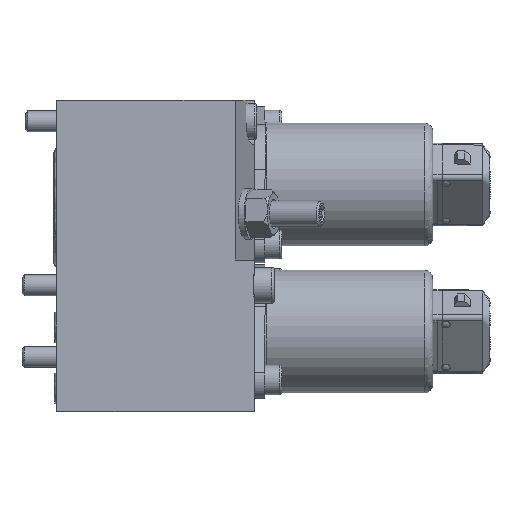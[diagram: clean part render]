
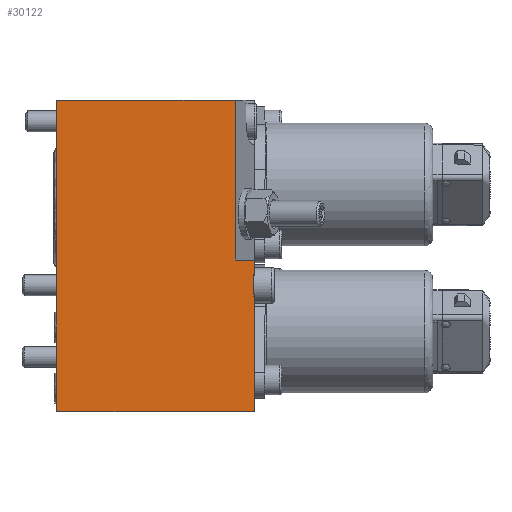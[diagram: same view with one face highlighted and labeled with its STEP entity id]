
A CAD part, top view. The second image highlights one B-rep face of the part: STEP entity #30122.
In plain terms, the highlighted planar face has unit normal (0, 0, 1).
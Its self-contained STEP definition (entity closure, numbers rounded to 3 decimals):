
#506 = VERTEX_POINT ( 'NONE', #32029 ) ;
#668 = DIRECTION ( 'NONE',  ( 1., 0., 0. ) ) ;
#690 = VECTOR ( 'NONE', #18390, 1000. ) ;
#1692 = DIRECTION ( 'NONE',  ( -1., 0., 0. ) ) ;
#3133 = DIRECTION ( 'NONE',  ( 0., -1., 0. ) ) ;
#3438 = DIRECTION ( 'NONE',  ( 0., 1., 0. ) ) ;
#3447 = LINE ( 'NONE', #25984, #690 ) ;
#3598 = CARTESIAN_POINT ( 'NONE',  ( 47., -46.291, 54. ) ) ;
#3690 = LINE ( 'NONE', #37022, #17293 ) ;
#3855 = AXIS2_PLACEMENT_3D ( 'NONE', #33881, #15272, #11844 ) ;
#3897 = EDGE_CURVE ( 'NONE', #18975, #12218, #28373, .T. ) ;
#3969 = VERTEX_POINT ( 'NONE', #46835 ) ;
#4959 = CARTESIAN_POINT ( 'NONE',  ( 46.7, -46.291, 54. ) ) ;
#6796 = VECTOR ( 'NONE', #26349, 1000. ) ;
#6890 = LINE ( 'NONE', #7142, #30893 ) ;
#7142 = CARTESIAN_POINT ( 'NONE',  ( 47., -41.709, 54. ) ) ;
#7848 = CARTESIAN_POINT ( 'NONE',  ( 0., -74., 54. ) ) ;
#8024 = CARTESIAN_POINT ( 'NONE',  ( 47., -38., 54. ) ) ;
#9222 = VERTEX_POINT ( 'NONE', #4959 ) ;
#9607 = ORIENTED_EDGE ( 'NONE', *, *, #21527, .T. ) ;
#10570 = DIRECTION ( 'NONE',  ( -1., 0., 0. ) ) ;
#11673 = EDGE_CURVE ( 'NONE', #506, #47706, #41182, .T. ) ;
#11680 = CARTESIAN_POINT ( 'NONE',  ( 46.7, -41.709, 54. ) ) ;
#11844 = DIRECTION ( 'NONE',  ( 1., 0., 0. ) ) ;
#12218 = VERTEX_POINT ( 'NONE', #42265 ) ;
#13625 = EDGE_CURVE ( 'NONE', #31107, #9222, #24441, .T. ) ;
#13675 = VECTOR ( 'NONE', #18530, 1000. ) ;
#14428 = ORIENTED_EDGE ( 'NONE', *, *, #14638, .F. ) ;
#14638 = EDGE_CURVE ( 'NONE', #9222, #36022, #26122, .T. ) ;
#15272 = DIRECTION ( 'NONE',  ( 0., 0., 1. ) ) ;
#16031 = EDGE_CURVE ( 'NONE', #12218, #506, #18600, .T. ) ;
#17293 = VECTOR ( 'NONE', #3438, 1000. ) ;
#18390 = DIRECTION ( 'NONE',  ( 0., 1., 0. ) ) ;
#18530 = DIRECTION ( 'NONE',  ( 1., 0., 0. ) ) ;
#18600 = LINE ( 'NONE', #41185, #36654 ) ;
#18975 = VERTEX_POINT ( 'NONE', #32248 ) ;
#19300 = DIRECTION ( 'NONE',  ( 1., 0., 0. ) ) ;
#20345 = ORIENTED_EDGE ( 'NONE', *, *, #37102, .T. ) ;
#21527 = EDGE_CURVE ( 'NONE', #21676, #18975, #22444, .T. ) ;
#21676 = VERTEX_POINT ( 'NONE', #31702 ) ;
#22444 = LINE ( 'NONE', #26579, #6796 ) ;
#22844 = ORIENTED_EDGE ( 'NONE', *, *, #16031, .T. ) ;
#23983 = CARTESIAN_POINT ( 'NONE',  ( 0., 0., 54. ) ) ;
#24441 = LINE ( 'NONE', #36223, #45071 ) ;
#25984 = CARTESIAN_POINT ( 'NONE',  ( 47., 0., 54. ) ) ;
#26122 = LINE ( 'NONE', #3598, #13675 ) ;
#26349 = DIRECTION ( 'NONE',  ( 0., 1., 0. ) ) ;
#26472 = VECTOR ( 'NONE', #1692, 1000. ) ;
#26579 = CARTESIAN_POINT ( 'NONE',  ( 42.414, -38., 54. ) ) ;
#27255 = ORIENTED_EDGE ( 'NONE', *, *, #13625, .F. ) ;
#28373 = LINE ( 'NONE', #23983, #26472 ) ;
#28660 = VERTEX_POINT ( 'NONE', #8024 ) ;
#28952 = ORIENTED_EDGE ( 'NONE', *, *, #42802, .F. ) ;
#30122 = ADVANCED_FACE ( 'NONE', ( #37592 ), #37825, .T. ) ;
#30893 = VECTOR ( 'NONE', #10570, 1000. ) ;
#30992 = VECTOR ( 'NONE', #668, 1000. ) ;
#31107 = VERTEX_POINT ( 'NONE', #11680 ) ;
#31702 = CARTESIAN_POINT ( 'NONE',  ( 42.414, -38., 54. ) ) ;
#32029 = CARTESIAN_POINT ( 'NONE',  ( 0., -74., 54. ) ) ;
#32248 = CARTESIAN_POINT ( 'NONE',  ( 42.414, 0., 54. ) ) ;
#33881 = CARTESIAN_POINT ( 'NONE',  ( 0., 0., 54. ) ) ;
#34886 = ORIENTED_EDGE ( 'NONE', *, *, #46474, .T. ) ;
#35551 = EDGE_LOOP ( 'NONE', ( #9607, #36524, #22844, #43300, #34886, #14428, #27255, #28952, #20345, #40800 ) ) ;
#36022 = VERTEX_POINT ( 'NONE', #46465 ) ;
#36223 = CARTESIAN_POINT ( 'NONE',  ( 46.7, 0., 54. ) ) ;
#36524 = ORIENTED_EDGE ( 'NONE', *, *, #3897, .T. ) ;
#36654 = VECTOR ( 'NONE', #45121, 1000. ) ;
#37022 = CARTESIAN_POINT ( 'NONE',  ( 47., 0., 54. ) ) ;
#37102 = EDGE_CURVE ( 'NONE', #3969, #28660, #3447, .T. ) ;
#37592 = FACE_OUTER_BOUND ( 'NONE', #35551, .T. ) ;
#37825 = PLANE ( 'NONE',  #3855 ) ;
#39183 = VECTOR ( 'NONE', #19300, 1000. ) ;
#39788 = CARTESIAN_POINT ( 'NONE',  ( 47., -74., 54. ) ) ;
#40800 = ORIENTED_EDGE ( 'NONE', *, *, #44706, .F. ) ;
#41182 = LINE ( 'NONE', #7848, #39183 ) ;
#41185 = CARTESIAN_POINT ( 'NONE',  ( 0., 0., 54. ) ) ;
#41858 = LINE ( 'NONE', #45789, #30992 ) ;
#42265 = CARTESIAN_POINT ( 'NONE',  ( 0., 0., 54. ) ) ;
#42802 = EDGE_CURVE ( 'NONE', #3969, #31107, #6890, .T. ) ;
#43300 = ORIENTED_EDGE ( 'NONE', *, *, #11673, .T. ) ;
#44706 = EDGE_CURVE ( 'NONE', #21676, #28660, #41858, .T. ) ;
#45071 = VECTOR ( 'NONE', #3133, 1000. ) ;
#45121 = DIRECTION ( 'NONE',  ( 0., -1., 0. ) ) ;
#45789 = CARTESIAN_POINT ( 'NONE',  ( 47., -38., 54. ) ) ;
#46465 = CARTESIAN_POINT ( 'NONE',  ( 47., -46.291, 54. ) ) ;
#46474 = EDGE_CURVE ( 'NONE', #47706, #36022, #3690, .T. ) ;
#46835 = CARTESIAN_POINT ( 'NONE',  ( 47., -41.709, 54. ) ) ;
#47706 = VERTEX_POINT ( 'NONE', #39788 ) ;
